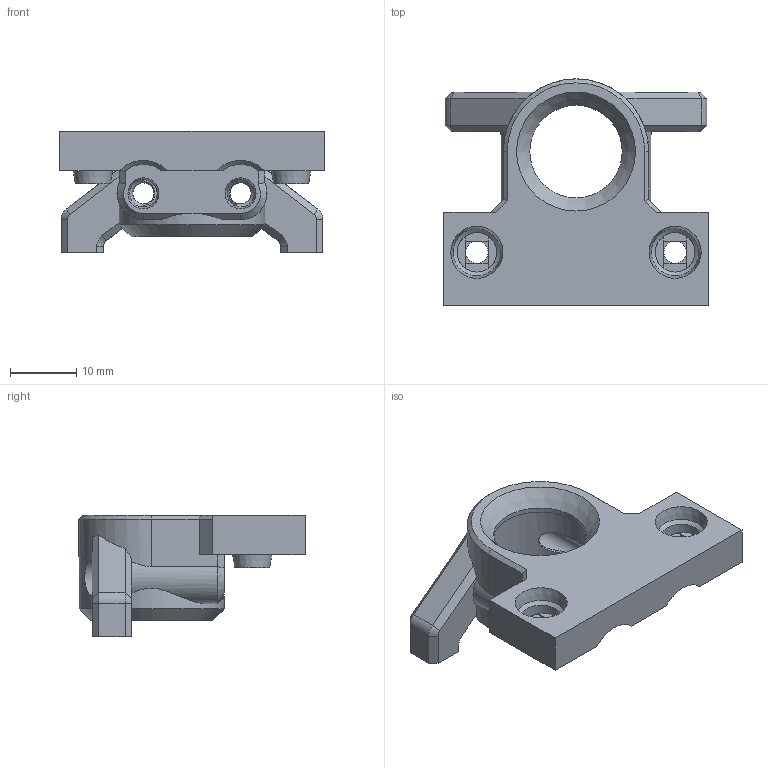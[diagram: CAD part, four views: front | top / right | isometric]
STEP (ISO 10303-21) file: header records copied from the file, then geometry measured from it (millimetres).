
FILE_DESCRIPTION(/* description */ (''),/* implementation_level */ '2;1');
FILE_NAME(/* name */ 'E3DV6-RevoSix-BMO-Dragon-Collar-Mount.step',/* time_stamp */ '2022-11-01T21:01:19-07:00',/* author */ (''),/* organization */ (''),/* preprocessor_version */ 'ST-DEVELOPER v19.2',/* originating_system */ 'Autodesk Translation Framework v11.17.0.187',/* authorisation */ '');
FILE_SCHEMA (('AUTOMOTIVE_DESIGN { 1 0 10303 214 3 1 1 }'));
Length unit declared in the file: millimetre
Products named in the file (3): GEN_7_1.5; E3D Volcano; E3d_V6_Interface_Plate_V1.5
Assembly tree (2 placements, depth 3):
  GEN_7_1.5
    E3D Volcano
      E3d_V6_Interface_Plate_V1.5
Bounding box: 40 x 34.23 x 18.43 mm (x, y, z)
Volume: 6823.7 mm3; surface area: 4869.4 mm2
Topology: 1 solids, 1 shells, 157 faces, 422 edges, 267 vertices
Faces by surface type: plane 92, cone 29, cylinder 26, bspline 10
Full cylindrical faces by diameter (mm): 3.2 x2, 3.4 x2, 4.15 x2, 6 x4, 14 x1, 16.3 x1
Entity records: 6281 total; most frequent: CARTESIAN_POINT 2318, ORIENTED_EDGE 844, DIRECTION 780, EDGE_CURVE 422, AXIS2_PLACEMENT_3D 273, VERTEX_POINT 267, LINE 234, VECTOR 234
